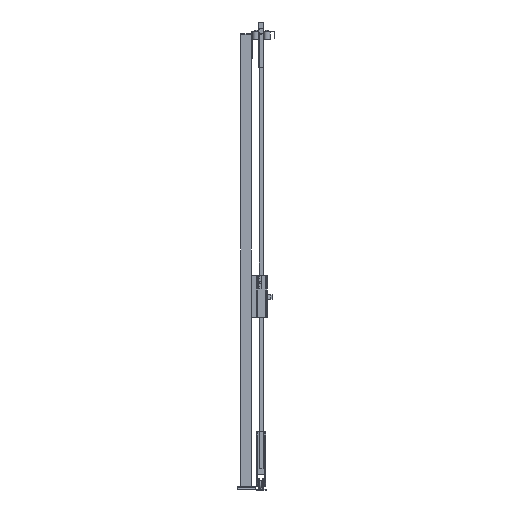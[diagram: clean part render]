
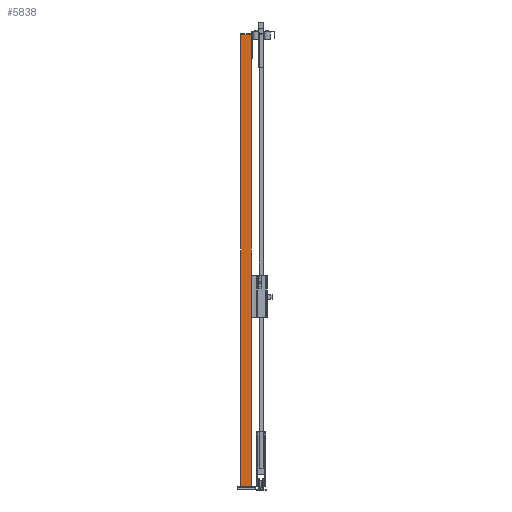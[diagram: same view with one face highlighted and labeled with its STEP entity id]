
A CAD part, left-side view. The second image highlights one B-rep face of the part: STEP entity #5838.
In plain terms, the highlighted planar face has unit normal (-1, 0, 0) as drawn and (0, 1, 0) by its records, which use the part's own axes.
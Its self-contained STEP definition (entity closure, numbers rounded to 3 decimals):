
#733=FACE_OUTER_BOUND('',#1036,.T.);
#1036=EDGE_LOOP('',(#4267,#4268,#4269,#4270));
#1465=LINE('',#8664,#2168);
#1471=LINE('',#8676,#2174);
#1474=LINE('',#8681,#2177);
#1475=LINE('',#8683,#2178);
#2168=VECTOR('',#6854,1.);
#2174=VECTOR('',#6862,1.);
#2177=VECTOR('',#6869,1.);
#2178=VECTOR('',#6872,1.);
#2782=VERTEX_POINT('',#8661);
#2783=VERTEX_POINT('',#8663);
#2785=VERTEX_POINT('',#8669);
#2788=VERTEX_POINT('',#8674);
#3376=EDGE_CURVE('',#2782,#2783,#1465,.T.);
#3382=EDGE_CURVE('',#2788,#2785,#1471,.T.);
#3385=EDGE_CURVE('',#2783,#2788,#1474,.T.);
#3386=EDGE_CURVE('',#2782,#2785,#1475,.T.);
#4267=ORIENTED_EDGE('',*,*,#3386,.T.);
#4268=ORIENTED_EDGE('',*,*,#3382,.F.);
#4269=ORIENTED_EDGE('',*,*,#3385,.F.);
#4270=ORIENTED_EDGE('',*,*,#3376,.F.);
#5585=PLANE('',#6190);
#5838=ADVANCED_FACE('',(#733),#5585,.F.);
#6190=AXIS2_PLACEMENT_3D('',#8682,#6870,#6871);
#6854=DIRECTION('',(-1.,0.,0.));
#6862=DIRECTION('',(1.,0.,0.));
#6869=DIRECTION('',(0.,0.,-1.));
#6870=DIRECTION('center_axis',(0.,-1.,0.));
#6871=DIRECTION('ref_axis',(0.,0.,-1.));
#6872=DIRECTION('',(0.,0.,-1.));
#8661=CARTESIAN_POINT('',(30.,30.,2520.));
#8663=CARTESIAN_POINT('',(-30.,30.,2520.));
#8664=CARTESIAN_POINT('',(0.,30.,2520.));
#8669=CARTESIAN_POINT('',(30.,30.,20.));
#8674=CARTESIAN_POINT('',(-30.,30.,20.));
#8676=CARTESIAN_POINT('',(0.,30.,20.));
#8681=CARTESIAN_POINT('',(-30.,30.,1270.));
#8682=CARTESIAN_POINT('Origin',(0.,30.,
1270.));
#8683=CARTESIAN_POINT('',(30.,30.,1270.));
